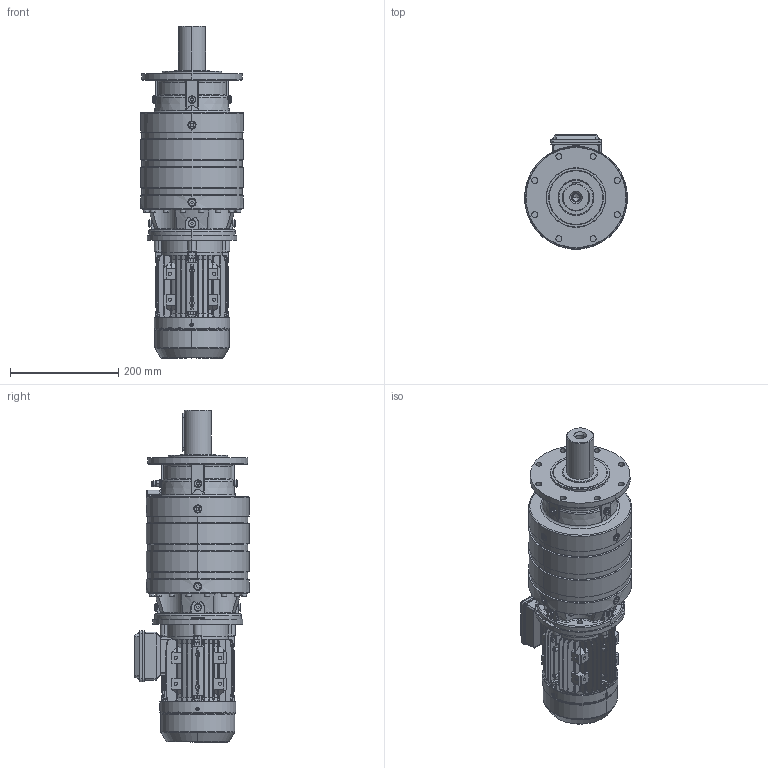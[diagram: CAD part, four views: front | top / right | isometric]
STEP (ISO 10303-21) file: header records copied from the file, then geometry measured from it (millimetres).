
FILE_DESCRIPTION (( 'STEP AP203' ), '1' );
FILE_NAME ('PVL-1103L-MX71-4.STEP', '2019-05-17T07:03:04', ( '' ), ( '' ), 'SwSTEP 2.0', 'SolidWorks 2012', '' );
FILE_SCHEMA (( 'CONFIG_CONTROL_DESIGN' ));
Products named in the file (15): MX71_B5; PVL-1103L-MX71-4; Lüfterhaube_MS71; L黤terfl黦el_MS71; Klemmkastenoberteil_MS71; B5-Flansch_MS71; Klemmenkastenunterteil_MS71; B-Lagerschild_MS71; PNL_1103L_0_0_A07_B5_ML7A_FL1A_0_0_0_0_0_0_0_0_0_0_0_M1; FL1A; Gehäuse_MS71L; EK1103L; ML7A; 1171B5; P11
Assembly tree (14 placements, depth 3):
  PVL-1103L-MX71-4
    PNL_1103L_0_0_A07_B5_ML7A_FL1A_0_0_0_0_0_0_0_0_0_0_0_M1
      P11
      1171B5
      ML7A
      EK1103L
      FL1A
    MX71_B5
      Gehäuse_MS71L
      B-Lagerschild_MS71
      B5-Flansch_MS71
      Klemmenkastenunterteil_MS71
      Klemmkastenoberteil_MS71
      L黤terfl黦el_MS71
      Lüfterhaube_MS71
Bounding box: 191 x 212.5 x 613.71 mm (x, y, z)
Volume: 7760904 mm3; surface area: 978142.6 mm2
Topology: 16 solids, 16 shells, 3052 faces, 7983 edges, 5077 vertices
Faces by surface type: plane 1506, cylinder 934, cone 317, bspline 188, torus 103, sphere 4
Entity records: 109189 total; most frequent: CARTESIAN_POINT 33971, ORIENTED_EDGE 15882, DIRECTION 14758, EDGE_CURVE 7941, AXIS2_PLACEMENT_3D 5337, VERTEX_POINT 5077, LINE 4084, VECTOR 4084
